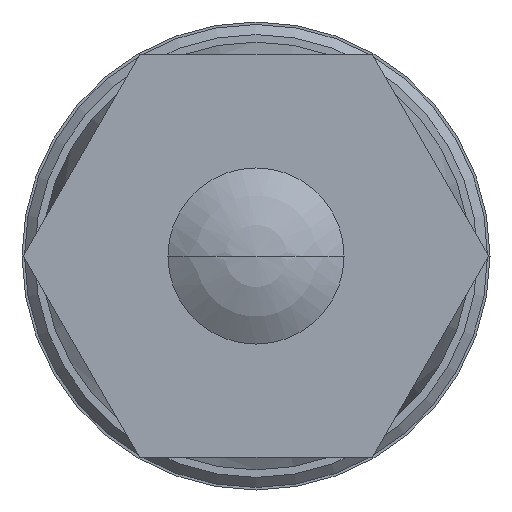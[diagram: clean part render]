
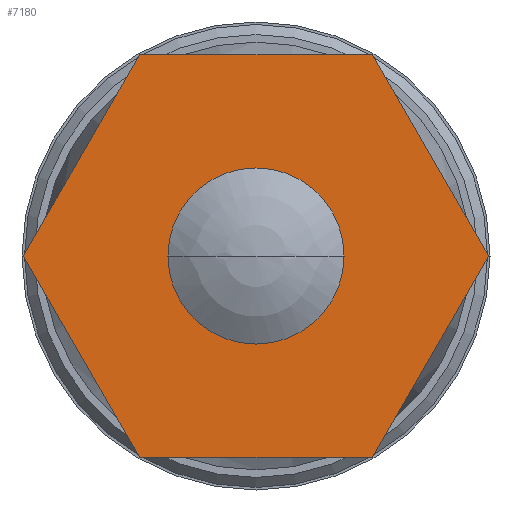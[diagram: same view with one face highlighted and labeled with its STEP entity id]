
A CAD part, left-side view. The second image highlights one B-rep face of the part: STEP entity #7180.
In plain terms, the highlighted planar face has unit normal (-1, 0, 0).
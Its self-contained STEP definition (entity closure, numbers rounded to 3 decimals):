
#1140=CARTESIAN_POINT('',(7.5,-4.619,
0.));
#1150=DIRECTION('',(0.,0.5,0.866));
#1160=VECTOR('',#1150,1.);
#1170=LINE('',#1140,#1160);
#1180=CARTESIAN_POINT('',(7.5,-4.619,
0.));
#1190=VERTEX_POINT('965005-1663825556-b88584a677cb-0 567428',#1180);
#1200=CARTESIAN_POINT('',(7.5,-2.309,4.));
#1210=VERTEX_POINT('965005-1663825556-b88584a677cb-0 567424',#1200);
#1220=EDGE_CURVE('965005-1663825556-b88584a677cb-0 567769',#1190,#1210,
#1170,.T.);
#2470=CARTESIAN_POINT('',(7.5,2.309,4.));
#2480=DIRECTION('',(0.,0.5,-0.866));
#2490=VECTOR('',#2480,1.);
#2500=LINE('',#2470,#2490);
#2510=CARTESIAN_POINT('',(7.5,2.309,4.));
#2520=VERTEX_POINT('965005-1663825556-b88584a677cb-0 567422',#2510);
#2530=CARTESIAN_POINT('',(7.5,4.619,
0.));
#2540=VERTEX_POINT('965005-1663825556-b88584a677cb-0 567418',#2530);
#2550=EDGE_CURVE('965005-1663825556-b88584a677cb-0 567753',#2520,#2540,
#2500,.T.);
#3200=CARTESIAN_POINT('',(7.5,2.309,4.));
#3210=DIRECTION('',(0.,-1.,0.));
#3220=VECTOR('',#3210,1.);
#3230=LINE('',#3200,#3220);
#3240=EDGE_CURVE('965005-1663825556-b88584a677cb-0 567761',#2520,#1210,
#3230,.T.);
#4060=CARTESIAN_POINT('',(7.5,-1.75,0.));
#4070=VERTEX_POINT('',#4060);
#4100=CARTESIAN_POINT('',(7.5,0.,0.));
#4110=DIRECTION('',(1.,0.,0.));
#4120=DIRECTION('',(0.,1.,0.));
#4130=AXIS2_PLACEMENT_3D('',#4100,#4110,#4120);
#4140=CIRCLE('',#4130,1.75);
#4150=CARTESIAN_POINT('',(7.5,1.75,0.));
#4160=VERTEX_POINT('965005-1663825556-b88584a677cb-0 567432',#4150);
#4170=EDGE_CURVE('965005-1663825556-b88584a677cb-0 567786',#4070,#4160,
#4140,.T.);
#5530=CARTESIAN_POINT('',(7.5,4.619,
0.));
#5540=DIRECTION('',(0.,-0.5,-0.866));
#5550=VECTOR('',#5540,1.);
#5560=LINE('',#5530,#5550);
#5570=CARTESIAN_POINT('',(7.5,2.309,-4.));
#5580=VERTEX_POINT('965005-1663825556-b88584a677cb-0 567412',#5570);
#5590=EDGE_CURVE('965005-1663825556-b88584a677cb-0 567745',#2540,#5580,
#5560,.T.);
#6880=CARTESIAN_POINT('',(7.5,2.125,0.));
#6890=DIRECTION('',(1.,0.,0.));
#6900=DIRECTION('',(0.,-1.,0.));
#6910=AXIS2_PLACEMENT_3D('',#6880,#6890,#6900);
#6920=PLANE('',#6910);
#6930=CARTESIAN_POINT('',(7.5,2.309,-4.));
#6940=DIRECTION('',(0.,-1.,0.));
#6950=VECTOR('',#6940,1.);
#6960=LINE('',#6930,#6950);
#6970=CARTESIAN_POINT('',(7.5,-2.309,-4.));
#6980=VERTEX_POINT('965005-1663825556-b88584a677cb-0 567414',#6970);
#6990=EDGE_CURVE('965005-1663825556-b88584a677cb-0 567737',#5580,#6980,
#6960,.T.);
#7000=ORIENTED_EDGE('',*,*,#6990,.T.);
#7010=ORIENTED_EDGE('',*,*,#5590,.T.);
#7020=ORIENTED_EDGE('',*,*,#2550,.T.);
#7030=ORIENTED_EDGE('',*,*,#3240,.F.);
#7040=ORIENTED_EDGE('',*,*,#1220,.T.);
#7050=CARTESIAN_POINT('',(7.5,-2.309,-4.));
#7060=DIRECTION('',(0.,-0.5,0.866));
#7070=VECTOR('',#7060,1.);
#7080=LINE('',#7050,#7070);
#7090=EDGE_CURVE('965005-1663825556-b88584a677cb-0 567776',#6980,#1190,
#7080,.T.);
#7100=ORIENTED_EDGE('',*,*,#7090,.T.);
#7110=EDGE_LOOP('',(#7100,#7040,#7030,#7020,#7010,#7000));
#7120=FACE_OUTER_BOUND('',#7110,.T.);
#7130=EDGE_CURVE('965005-1663825556-b88584a677cb-0 567786',#4160,#4070,
#4140,.T.);
#7140=ORIENTED_EDGE('',*,*,#7130,.T.);
#7150=ORIENTED_EDGE('',*,*,#4170,.T.);
#7160=EDGE_LOOP('',(#7150,#7140));
#7170=FACE_BOUND('',#7160,.T.);
#7180=ADVANCED_FACE('965005-1663825556-b88584a677cb-0 567778',(#7120,
#7170),#6920,.F.);
